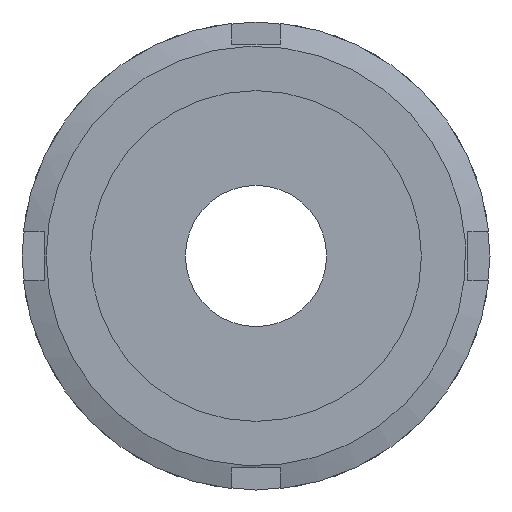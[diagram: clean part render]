
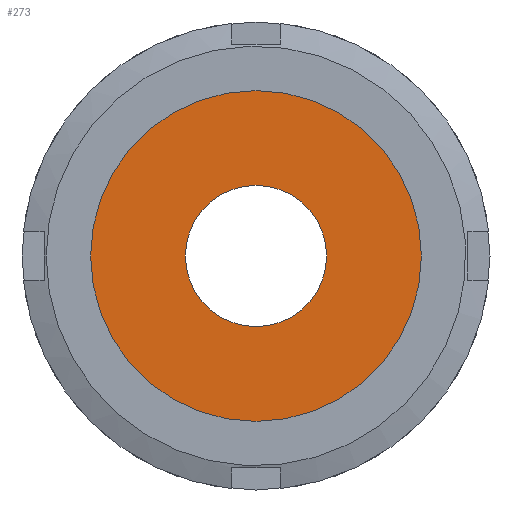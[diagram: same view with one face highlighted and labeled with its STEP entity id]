
A CAD part, left-side view. The second image highlights one B-rep face of the part: STEP entity #273.
In plain terms, the highlighted planar face has unit normal (-1, 0, 0) as drawn and (0, -1, 0) by its records, which use the part's own axes.
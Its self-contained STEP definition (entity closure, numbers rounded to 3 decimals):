
#273 = ADVANCED_FACE( '', ( #402, #403 ), #404, .T. );
#402 = FACE_OUTER_BOUND( '', #610, .T. );
#403 = FACE_BOUND( '', #611, .T. );
#404 = PLANE( '', #612 );
#610 = EDGE_LOOP( '', ( #961 ) );
#611 = EDGE_LOOP( '', ( #962 ) );
#612 = AXIS2_PLACEMENT_3D( '', #963, #964, #965 );
#961 = ORIENTED_EDGE( '', *, *, #1422, .T. );
#962 = ORIENTED_EDGE( '', *, *, #1423, .F. );
#963 = CARTESIAN_POINT( '', ( 8.75, 0., 0. ) );
#964 = DIRECTION( '', ( 0., -1., 0. ) );
#965 = DIRECTION( '', ( 0., 0., -1. ) );
#1422 = EDGE_CURVE( '', #1649, #1649, #1650, .T. );
#1423 = EDGE_CURVE( '', #1651, #1651, #1652, .T. );
#1649 = VERTEX_POINT( '', #2105 );
#1650 = CIRCLE( '', #2106, 20.5 );
#1651 = VERTEX_POINT( '', #2107 );
#1652 = CIRCLE( '', #2108, 8.75 );
#2105 = CARTESIAN_POINT( '', ( 0., 0., -20.5 ) );
#2106 = AXIS2_PLACEMENT_3D( '', #2580, #2581, #2582 );
#2107 = CARTESIAN_POINT( '', ( 0., 0., -8.75 ) );
#2108 = AXIS2_PLACEMENT_3D( '', #2583, #2584, #2585 );
#2580 = CARTESIAN_POINT( '', ( 0., 0., 0. ) );
#2581 = DIRECTION( '', ( 0., -1., 0. ) );
#2582 = DIRECTION( '', ( 0., 0., -1. ) );
#2583 = CARTESIAN_POINT( '', ( 0., 0., 0. ) );
#2584 = DIRECTION( '', ( 0., -1., 0. ) );
#2585 = DIRECTION( '', ( 0., 0., -1. ) );
